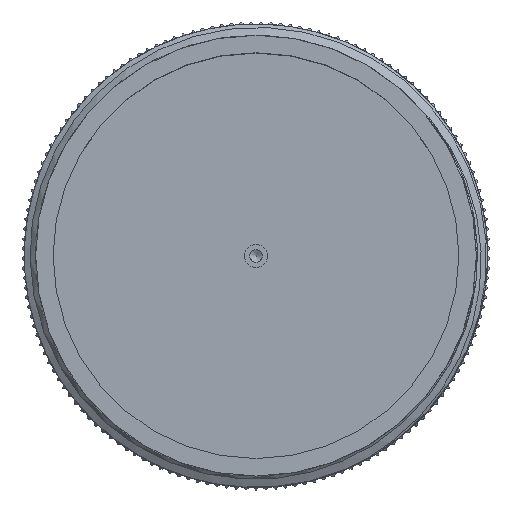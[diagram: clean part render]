
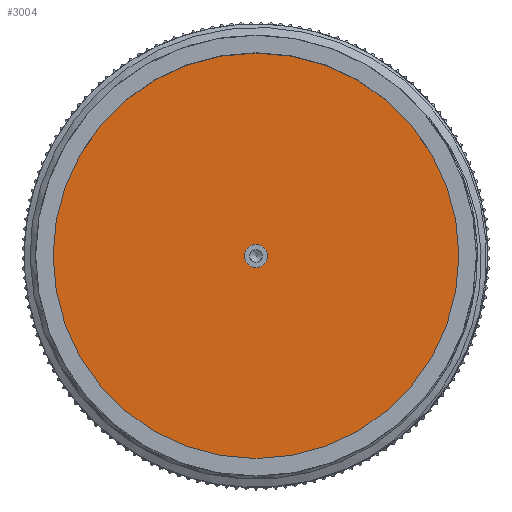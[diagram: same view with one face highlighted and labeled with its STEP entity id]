
A CAD part, top view. The second image highlights one B-rep face of the part: STEP entity #3004.
In plain terms, the highlighted planar face has unit normal (0, 0, 1).
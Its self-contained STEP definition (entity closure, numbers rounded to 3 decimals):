
#189 = DIRECTION ( 'NONE',  ( 0., 0., 1. ) ) ;
#2721 = FACE_OUTER_BOUND ( 'NONE', #9336, .T. ) ;
#3004 = ADVANCED_FACE ( 'NONE', ( #2721, #34108 ), #23840, .F. ) ;
#3128 = AXIS2_PLACEMENT_3D ( 'NONE', #11583, #20566, #26944 ) ;
#4058 = CARTESIAN_POINT ( 'NONE',  ( 19.445, 0., -19.05 ) ) ;
#9336 = EDGE_LOOP ( 'NONE', ( #40006 ) ) ;
#9656 = DIRECTION ( 'NONE',  ( 1., 0., 0. ) ) ;
#11138 = VERTEX_POINT ( 'NONE', #4058 ) ;
#11583 = CARTESIAN_POINT ( 'NONE',  ( 0., 1.974, -19.05 ) ) ;
#13884 = CIRCLE ( 'NONE', #29144, 1.115 ) ;
#17090 = DIRECTION ( 'NONE',  ( 0., 0., 1. ) ) ;
#18609 = CIRCLE ( 'NONE', #39448, 19.445 ) ;
#18658 = CARTESIAN_POINT ( 'NONE',  ( 0., 0., -19.05 ) ) ;
#20566 = DIRECTION ( 'NONE',  ( 0., 0., -1. ) ) ;
#23047 = DIRECTION ( 'NONE',  ( 1., 0., 0. ) ) ;
#23444 = CARTESIAN_POINT ( 'NONE',  ( 0., 0., -19.05 ) ) ;
#23840 = PLANE ( 'NONE',  #3128 ) ;
#26944 = DIRECTION ( 'NONE',  ( -1., 0., 0. ) ) ;
#29144 = AXIS2_PLACEMENT_3D ( 'NONE', #23444, #17090, #23047 ) ;
#30930 = EDGE_CURVE ( 'NONE', #35732, #35732, #13884, .T. ) ;
#31888 = EDGE_CURVE ( 'NONE', #11138, #11138, #18609, .T. ) ;
#32050 = CARTESIAN_POINT ( 'NONE',  ( 1.115, 0., -19.05 ) ) ;
#32675 = ORIENTED_EDGE ( 'NONE', *, *, #30930, .F. ) ;
#34108 = FACE_BOUND ( 'NONE', #37930, .T. ) ;
#35732 = VERTEX_POINT ( 'NONE', #32050 ) ;
#37930 = EDGE_LOOP ( 'NONE', ( #32675 ) ) ;
#39448 = AXIS2_PLACEMENT_3D ( 'NONE', #18658, #189, #9656 ) ;
#40006 = ORIENTED_EDGE ( 'NONE', *, *, #31888, .T. ) ;
